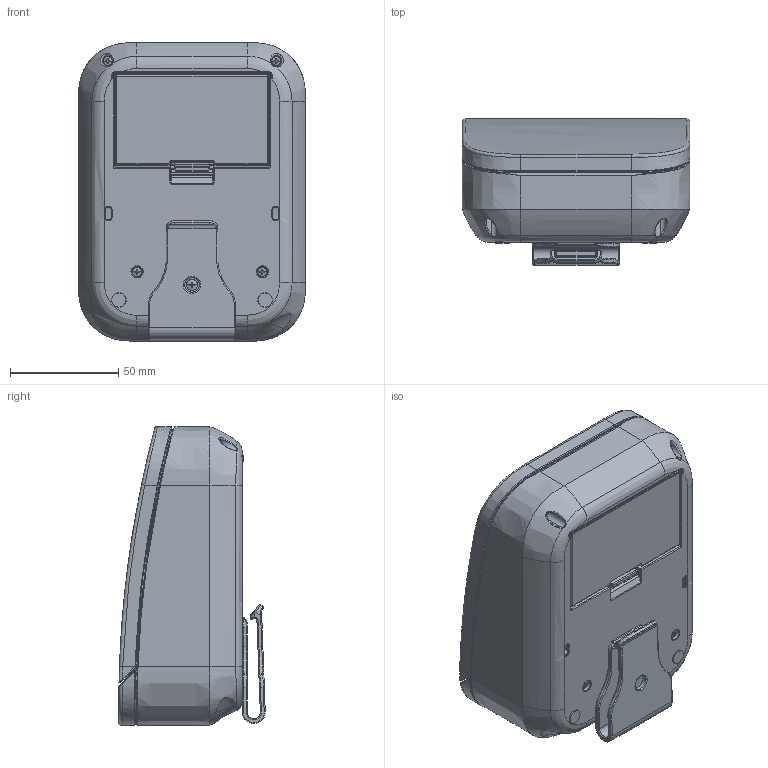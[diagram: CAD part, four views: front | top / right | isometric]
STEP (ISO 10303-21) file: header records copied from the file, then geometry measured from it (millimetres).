
FILE_DESCRIPTION((''),'2;1');
FILE_NAME('TM-P80II_CLOSE_250227_SW0001','2025-02-26T16:22:49',('5005293'),(''),'CREO PARAMETRIC BY PTC INC, 2021184','CREO PARAMETRIC BY PTC INC, 2021184','');
FILE_SCHEMA(('AUTOMOTIVE_DESIGN { 1 0 10303 214 1 1 1 1 }'));
Products named in the file (1): TM-P80II_CLOSE_250227_SW0001
Bounding box: 105 x 67.71 x 138.1 mm (x, y, z)
Surface area: 178503 mm2 (no closed solid volume)
Topology: 0 solids, 65 shells, 4388 faces, 13588 edges, 9105 vertices
Faces by surface type: plane 1832, cylinder 1519, bspline 497, torus 251, cone 136, extrusion 96, sphere 57
Entity records: 217140 total; most frequent: CARTESIAN_POINT 100165, ORIENTED_EDGE 24445, DIRECTION 23091, EDGE_CURVE 13587, VERTEX_POINT 9105, AXIS2_PLACEMENT_3D 7746, VECTOR 7599, LINE 7503
